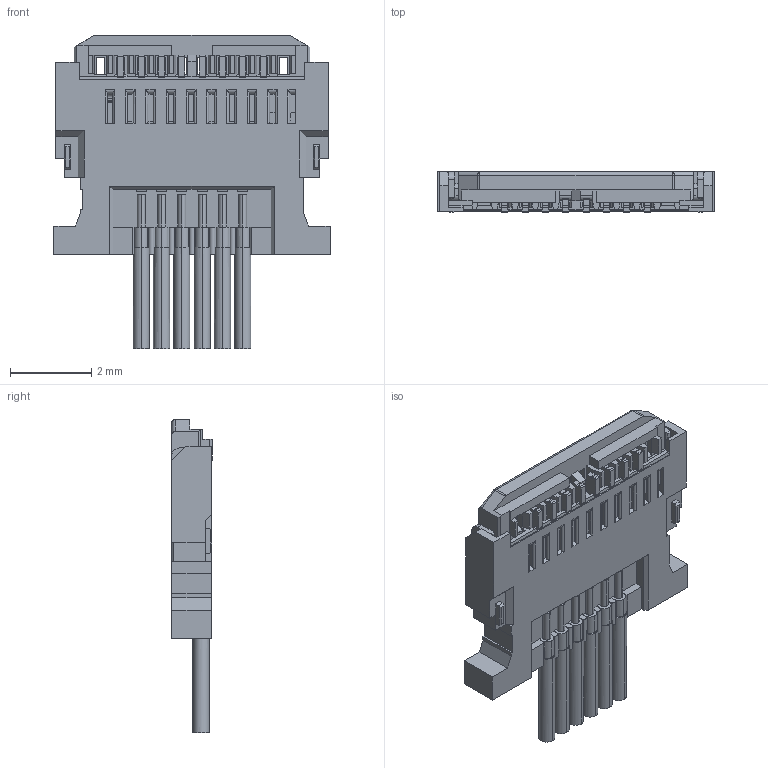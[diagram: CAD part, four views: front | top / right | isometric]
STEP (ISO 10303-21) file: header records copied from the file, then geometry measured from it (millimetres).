
FILE_DESCRIPTION (( 'STEP AP214' ), '1' );
FILE_NAME ('MATTING-ASSY 6P.STEP', '2015-07-22T07:22:46', ( '' ), ( '' ), 'SwSTEP 2.0', 'SolidWorks 2012', '' );
FILE_SCHEMA (( 'AUTOMOTIVE_DESIGN' ));
Length unit declared in the file: millimetre
Products named in the file (1): MATTING-ASSY 6P
Bounding box: 6.8 x 1 x 7.72 mm (x, y, z)
Volume: 28 mm3; surface area: 144.9 mm2
Topology: 1 solids, 9 shells, 960 faces, 2779 edges, 1810 vertices
Faces by surface type: plane 749, cylinder 209, sphere 2
Entity records: 31414 total; most frequent: CARTESIAN_POINT 6328, ORIENTED_EDGE 5554, DIRECTION 4829, EDGE_CURVE 2777, LINE 2279, VECTOR 2279, VERTEX_POINT 1810, AXIS2_PLACEMENT_3D 1275
